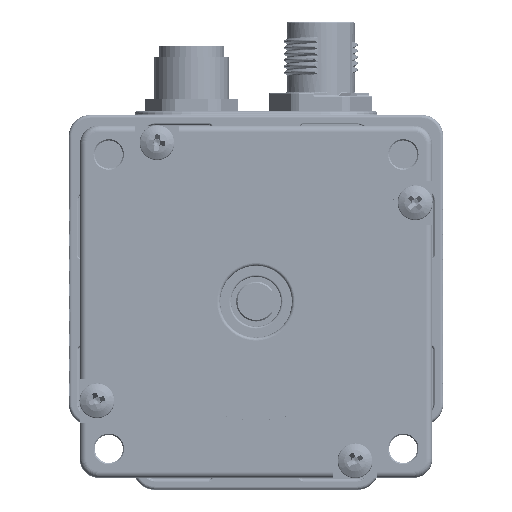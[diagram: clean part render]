
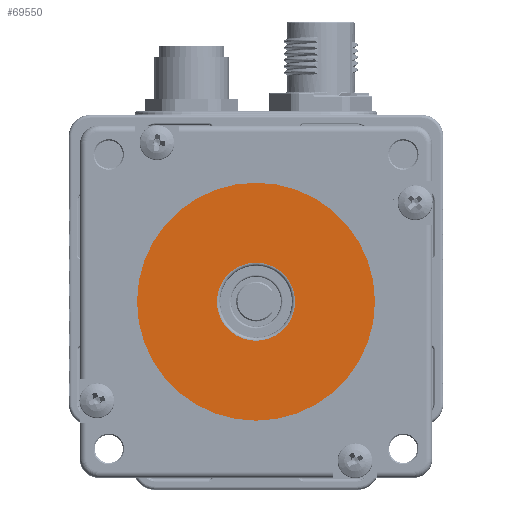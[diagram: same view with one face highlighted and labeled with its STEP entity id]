
A CAD part, top view. The second image highlights one B-rep face of the part: STEP entity #69550.
In plain terms, the highlighted planar face has unit normal (0, 0, 1).
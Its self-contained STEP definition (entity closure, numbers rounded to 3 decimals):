
#12439 = EDGE_CURVE ( 'NONE', #77216, #110404, #54549, .T. ) ;
#20787 = CARTESIAN_POINT ( 'NONE',  ( 22.674, -30.424, 84.595 ) ) ;
#24512 = EDGE_LOOP ( 'NONE', ( #132871, #68092 ) ) ;
#27110 = CARTESIAN_POINT ( 'NONE',  ( -24.576, -2.224, 84.595 ) ) ;
#27949 = VERTEX_POINT ( 'NONE', #94558 ) ;
#29748 = DIRECTION ( 'NONE',  ( 1., 0., 0. ) ) ;
#34243 = DIRECTION ( 'NONE',  ( 1., 0., 0. ) ) ;
#35061 = ORIENTED_EDGE ( 'NONE', *, *, #146175, .T. ) ;
#36316 = FACE_BOUND ( 'NONE', #123263, .T. ) ;
#36917 = CIRCLE ( 'NONE', #202024, 19.05 ) ;
#54549 = CIRCLE ( 'NONE', #179944, 19.05 ) ;
#55810 = ORIENTED_EDGE ( 'NONE', *, *, #181408, .T. ) ;
#63789 = CARTESIAN_POINT ( 'NONE',  ( -5.526, -2.224, 84.595 ) ) ;
#68092 = ORIENTED_EDGE ( 'NONE', *, *, #12439, .T. ) ;
#69336 = PLANE ( 'NONE',  #108004 ) ;
#69550 = ADVANCED_FACE ( 'NONE', ( #114889, #36316 ), #69336, .T. ) ;
#77216 = VERTEX_POINT ( 'NONE', #27110 ) ;
#81550 = CARTESIAN_POINT ( 'NONE',  ( -5.526, -2.224, 84.595 ) ) ;
#83828 = DIRECTION ( 'NONE',  ( 0., 0., 1. ) ) ;
#90094 = DIRECTION ( 'NONE',  ( 1., 0., 0. ) ) ;
#94558 = CARTESIAN_POINT ( 'NONE',  ( -11.776, -2.224, 84.595 ) ) ;
#102127 = CIRCLE ( 'NONE', #148248, 6.25 ) ;
#103027 = DIRECTION ( 'NONE',  ( 1., 0., 0. ) ) ;
#108004 = AXIS2_PLACEMENT_3D ( 'NONE', #20787, #83828, #34243 ) ;
#109760 = EDGE_CURVE ( 'NONE', #110404, #77216, #36917, .T. ) ;
#110404 = VERTEX_POINT ( 'NONE', #189605 ) ;
#114889 = FACE_OUTER_BOUND ( 'NONE', #24512, .T. ) ;
#116521 = CARTESIAN_POINT ( 'NONE',  ( -5.526, -2.224, 84.595 ) ) ;
#121123 = DIRECTION ( 'NONE',  ( 0., 0., -1. ) ) ;
#122574 = AXIS2_PLACEMENT_3D ( 'NONE', #150058, #121123, #90094 ) ;
#123263 = EDGE_LOOP ( 'NONE', ( #55810, #35061 ) ) ;
#129080 = CIRCLE ( 'NONE', #122574, 6.25 ) ;
#132871 = ORIENTED_EDGE ( 'NONE', *, *, #109760, .T. ) ;
#137997 = CARTESIAN_POINT ( 'NONE',  ( 0.724, -2.224, 84.595 ) ) ;
#146175 = EDGE_CURVE ( 'NONE', #27949, #167326, #102127, .T. ) ;
#148248 = AXIS2_PLACEMENT_3D ( 'NONE', #63789, #182040, #29748 ) ;
#150058 = CARTESIAN_POINT ( 'NONE',  ( -5.526, -2.224, 84.595 ) ) ;
#161167 = DIRECTION ( 'NONE',  ( 0., 0., 1. ) ) ;
#167326 = VERTEX_POINT ( 'NONE', #137997 ) ;
#179944 = AXIS2_PLACEMENT_3D ( 'NONE', #116521, #181584, #103027 ) ;
#181408 = EDGE_CURVE ( 'NONE', #167326, #27949, #129080, .T. ) ;
#181584 = DIRECTION ( 'NONE',  ( 0., 0., 1. ) ) ;
#182040 = DIRECTION ( 'NONE',  ( 0., 0., -1. ) ) ;
#189605 = CARTESIAN_POINT ( 'NONE',  ( 13.524, -2.224, 84.595 ) ) ;
#193184 = DIRECTION ( 'NONE',  ( 1., 0., 0. ) ) ;
#202024 = AXIS2_PLACEMENT_3D ( 'NONE', #81550, #161167, #193184 ) ;
